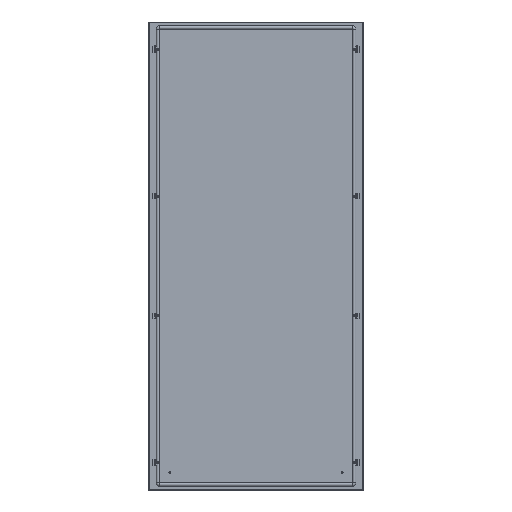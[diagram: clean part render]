
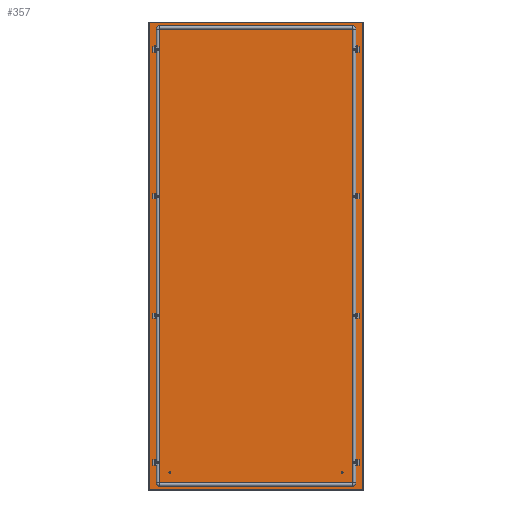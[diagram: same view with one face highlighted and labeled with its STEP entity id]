
A CAD part, top view. The second image highlights one B-rep face of the part: STEP entity #357.
In plain terms, the highlighted planar face has unit normal (0, 0, 1).
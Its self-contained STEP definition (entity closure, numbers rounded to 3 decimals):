
#357 = ADVANCED_FACE('',(#358,#456,#467,#478,#498,#518,#529,#540,#560),
  #580,.F.);
#358 = FACE_BOUND('',#359,.T.);
#359 = EDGE_LOOP('',(#360,#370,#378,#386,#394,#402,#410,#418,#426,#434,
    #442,#450));
#360 = ORIENTED_EDGE('',*,*,#361,.F.);
#361 = EDGE_CURVE('',#362,#364,#366,.T.);
#362 = VERTEX_POINT('',#363);
#363 = CARTESIAN_POINT('',(-495.5,1077.5,0.));
#364 = VERTEX_POINT('',#365);
#365 = CARTESIAN_POINT('',(-495.3,1077.5,0.));
#366 = LINE('',#367,#368);
#367 = CARTESIAN_POINT('',(0.,1077.5,
    0.));
#368 = VECTOR('',#369,1.);
#369 = DIRECTION('',(1.,0.,0.));
#370 = ORIENTED_EDGE('',*,*,#371,.T.);
#371 = EDGE_CURVE('',#362,#372,#374,.T.);
#372 = VERTEX_POINT('',#373);
#373 = CARTESIAN_POINT('',(-495.5,-1077.5,0.));
#374 = LINE('',#375,#376);
#375 = CARTESIAN_POINT('',(-495.5,0.,0.)
  );
#376 = VECTOR('',#377,1.);
#377 = DIRECTION('',(0.,-1.,0.));
#378 = ORIENTED_EDGE('',*,*,#379,.T.);
#379 = EDGE_CURVE('',#372,#380,#382,.T.);
#380 = VERTEX_POINT('',#381);
#381 = CARTESIAN_POINT('',(-495.3,-1077.5,0.));
#382 = LINE('',#383,#384);
#383 = CARTESIAN_POINT('',(0.,-1077.5,
    0.));
#384 = VECTOR('',#385,1.);
#385 = DIRECTION('',(1.,-0.,-0.));
#386 = ORIENTED_EDGE('',*,*,#387,.F.);
#387 = EDGE_CURVE('',#388,#380,#390,.T.);
#388 = VERTEX_POINT('',#389);
#389 = CARTESIAN_POINT('',(-495.3,-1076.,0.));
#390 = LINE('',#391,#392);
#391 = CARTESIAN_POINT('',(-495.3,0.,0.
    ));
#392 = VECTOR('',#393,1.);
#393 = DIRECTION('',(0.,-1.,0.));
#394 = ORIENTED_EDGE('',*,*,#395,.T.);
#395 = EDGE_CURVE('',#388,#396,#398,.T.);
#396 = VERTEX_POINT('',#397);
#397 = CARTESIAN_POINT('',(495.3,-1076.,0.
    ));
#398 = LINE('',#399,#400);
#399 = CARTESIAN_POINT('',(0.,-1076.,
    0.));
#400 = VECTOR('',#401,1.);
#401 = DIRECTION('',(1.,-0.,-0.));
#402 = ORIENTED_EDGE('',*,*,#403,.T.);
#403 = EDGE_CURVE('',#396,#404,#406,.T.);
#404 = VERTEX_POINT('',#405);
#405 = CARTESIAN_POINT('',(495.3,-1077.5,
    0.));
#406 = LINE('',#407,#408);
#407 = CARTESIAN_POINT('',(495.3,-1076.,
    0.));
#408 = VECTOR('',#409,1.);
#409 = DIRECTION('',(0.,-1.,0.));
#410 = ORIENTED_EDGE('',*,*,#411,.F.);
#411 = EDGE_CURVE('',#412,#404,#414,.T.);
#412 = VERTEX_POINT('',#413);
#413 = CARTESIAN_POINT('',(495.5,-1077.5,
    0.));
#414 = LINE('',#415,#416);
#415 = CARTESIAN_POINT('',(0.,-1077.5,
    0.));
#416 = VECTOR('',#417,1.);
#417 = DIRECTION('',(-1.,0.,0.));
#418 = ORIENTED_EDGE('',*,*,#419,.T.);
#419 = EDGE_CURVE('',#412,#420,#422,.T.);
#420 = VERTEX_POINT('',#421);
#421 = CARTESIAN_POINT('',(495.5,1077.5,
    0.));
#422 = LINE('',#423,#424);
#423 = CARTESIAN_POINT('',(495.5,0.,0.));
#424 = VECTOR('',#425,1.);
#425 = DIRECTION('',(0.,1.,0.));
#426 = ORIENTED_EDGE('',*,*,#427,.T.);
#427 = EDGE_CURVE('',#420,#428,#430,.T.);
#428 = VERTEX_POINT('',#429);
#429 = CARTESIAN_POINT('',(495.3,1077.5,
    0.));
#430 = LINE('',#431,#432);
#431 = CARTESIAN_POINT('',(0.,1077.5,
    0.));
#432 = VECTOR('',#433,1.);
#433 = DIRECTION('',(-1.,0.,0.));
#434 = ORIENTED_EDGE('',*,*,#435,.F.);
#435 = EDGE_CURVE('',#436,#428,#438,.T.);
#436 = VERTEX_POINT('',#437);
#437 = CARTESIAN_POINT('',(495.3,1076.,0.
    ));
#438 = LINE('',#439,#440);
#439 = CARTESIAN_POINT('',(495.3,0.,
    0.));
#440 = VECTOR('',#441,1.);
#441 = DIRECTION('',(0.,1.,0.));
#442 = ORIENTED_EDGE('',*,*,#443,.T.);
#443 = EDGE_CURVE('',#436,#444,#446,.T.);
#444 = VERTEX_POINT('',#445);
#445 = CARTESIAN_POINT('',(-495.3,1076.,0.));
#446 = LINE('',#447,#448);
#447 = CARTESIAN_POINT('',(0.,1076.,
    0.));
#448 = VECTOR('',#449,1.);
#449 = DIRECTION('',(-1.,0.,0.));
#450 = ORIENTED_EDGE('',*,*,#451,.T.);
#451 = EDGE_CURVE('',#444,#364,#452,.T.);
#452 = LINE('',#453,#454);
#453 = CARTESIAN_POINT('',(-495.3,1076.,0.));
#454 = VECTOR('',#455,1.);
#455 = DIRECTION('',(0.,1.,0.));
#456 = FACE_BOUND('',#457,.T.);
#457 = EDGE_LOOP('',(#458));
#458 = ORIENTED_EDGE('',*,*,#459,.T.);
#459 = EDGE_CURVE('',#460,#460,#462,.T.);
#460 = VERTEX_POINT('',#461);
#461 = CARTESIAN_POINT('',(-464.5,-270.25,0.));
#462 = CIRCLE('',#463,4.75);
#463 = AXIS2_PLACEMENT_3D('',#464,#465,#466);
#464 = CARTESIAN_POINT('',(-464.5,-275.,0.));
#465 = DIRECTION('',(0.,0.,-1.));
#466 = DIRECTION('',(0.,1.,0.));
#467 = FACE_BOUND('',#468,.T.);
#468 = EDGE_LOOP('',(#469));
#469 = ORIENTED_EDGE('',*,*,#470,.T.);
#470 = EDGE_CURVE('',#471,#471,#473,.T.);
#471 = VERTEX_POINT('',#472);
#472 = CARTESIAN_POINT('',(464.5,-279.75,0.));
#473 = CIRCLE('',#474,4.75);
#474 = AXIS2_PLACEMENT_3D('',#475,#476,#477);
#475 = CARTESIAN_POINT('',(464.5,-275.,0.));
#476 = DIRECTION('',(-0.,0.,-1.));
#477 = DIRECTION('',(0.,-1.,0.));
#478 = FACE_BOUND('',#479,.T.);
#479 = EDGE_LOOP('',(#480,#491));
#480 = ORIENTED_EDGE('',*,*,#481,.F.);
#481 = EDGE_CURVE('',#482,#484,#486,.T.);
#482 = VERTEX_POINT('',#483);
#483 = CARTESIAN_POINT('',(-464.5,954.75,0.));
#484 = VERTEX_POINT('',#485);
#485 = CARTESIAN_POINT('',(-464.5,945.25,0.));
#486 = CIRCLE('',#487,4.75);
#487 = AXIS2_PLACEMENT_3D('',#488,#489,#490);
#488 = CARTESIAN_POINT('',(-464.5,950.,0.));
#489 = DIRECTION('',(0.,0.,1.));
#490 = DIRECTION('',(0.,1.,0.));
#491 = ORIENTED_EDGE('',*,*,#492,.F.);
#492 = EDGE_CURVE('',#484,#482,#493,.T.);
#493 = CIRCLE('',#494,4.75);
#494 = AXIS2_PLACEMENT_3D('',#495,#496,#497);
#495 = CARTESIAN_POINT('',(-464.5,950.,0.));
#496 = DIRECTION('',(0.,0.,1.));
#497 = DIRECTION('',(0.,1.,0.));
#498 = FACE_BOUND('',#499,.T.);
#499 = EDGE_LOOP('',(#500,#511));
#500 = ORIENTED_EDGE('',*,*,#501,.F.);
#501 = EDGE_CURVE('',#502,#504,#506,.T.);
#502 = VERTEX_POINT('',#503);
#503 = CARTESIAN_POINT('',(464.5,945.25,0.));
#504 = VERTEX_POINT('',#505);
#505 = CARTESIAN_POINT('',(464.5,954.75,0.));
#506 = CIRCLE('',#507,4.75);
#507 = AXIS2_PLACEMENT_3D('',#508,#509,#510);
#508 = CARTESIAN_POINT('',(464.5,950.,0.));
#509 = DIRECTION('',(0.,0.,1.));
#510 = DIRECTION('',(0.,-1.,0.));
#511 = ORIENTED_EDGE('',*,*,#512,.F.);
#512 = EDGE_CURVE('',#504,#502,#513,.T.);
#513 = CIRCLE('',#514,4.75);
#514 = AXIS2_PLACEMENT_3D('',#515,#516,#517);
#515 = CARTESIAN_POINT('',(464.5,950.,0.));
#516 = DIRECTION('',(0.,0.,1.));
#517 = DIRECTION('',(0.,-1.,0.));
#518 = FACE_BOUND('',#519,.T.);
#519 = EDGE_LOOP('',(#520));
#520 = ORIENTED_EDGE('',*,*,#521,.T.);
#521 = EDGE_CURVE('',#522,#522,#524,.T.);
#522 = VERTEX_POINT('',#523);
#523 = CARTESIAN_POINT('',(-464.5,-945.25,0.));
#524 = CIRCLE('',#525,4.75);
#525 = AXIS2_PLACEMENT_3D('',#526,#527,#528);
#526 = CARTESIAN_POINT('',(-464.5,-950.,0.));
#527 = DIRECTION('',(0.,0.,-1.));
#528 = DIRECTION('',(0.,1.,0.));
#529 = FACE_BOUND('',#530,.T.);
#530 = EDGE_LOOP('',(#531));
#531 = ORIENTED_EDGE('',*,*,#532,.T.);
#532 = EDGE_CURVE('',#533,#533,#535,.T.);
#533 = VERTEX_POINT('',#534);
#534 = CARTESIAN_POINT('',(464.5,-954.75,0.));
#535 = CIRCLE('',#536,4.75);
#536 = AXIS2_PLACEMENT_3D('',#537,#538,#539);
#537 = CARTESIAN_POINT('',(464.5,-950.,0.));
#538 = DIRECTION('',(-0.,0.,-1.));
#539 = DIRECTION('',(0.,-1.,0.));
#540 = FACE_BOUND('',#541,.T.);
#541 = EDGE_LOOP('',(#542,#553));
#542 = ORIENTED_EDGE('',*,*,#543,.F.);
#543 = EDGE_CURVE('',#544,#546,#548,.T.);
#544 = VERTEX_POINT('',#545);
#545 = CARTESIAN_POINT('',(464.5,270.25,0.));
#546 = VERTEX_POINT('',#547);
#547 = CARTESIAN_POINT('',(464.5,279.75,0.));
#548 = CIRCLE('',#549,4.75);
#549 = AXIS2_PLACEMENT_3D('',#550,#551,#552);
#550 = CARTESIAN_POINT('',(464.5,275.,0.));
#551 = DIRECTION('',(0.,0.,1.));
#552 = DIRECTION('',(0.,-1.,0.));
#553 = ORIENTED_EDGE('',*,*,#554,.F.);
#554 = EDGE_CURVE('',#546,#544,#555,.T.);
#555 = CIRCLE('',#556,4.75);
#556 = AXIS2_PLACEMENT_3D('',#557,#558,#559);
#557 = CARTESIAN_POINT('',(464.5,275.,0.));
#558 = DIRECTION('',(0.,0.,1.));
#559 = DIRECTION('',(0.,-1.,0.));
#560 = FACE_BOUND('',#561,.T.);
#561 = EDGE_LOOP('',(#562,#573));
#562 = ORIENTED_EDGE('',*,*,#563,.F.);
#563 = EDGE_CURVE('',#564,#566,#568,.T.);
#564 = VERTEX_POINT('',#565);
#565 = CARTESIAN_POINT('',(-464.5,279.75,0.));
#566 = VERTEX_POINT('',#567);
#567 = CARTESIAN_POINT('',(-464.5,270.25,0.));
#568 = CIRCLE('',#569,4.75);
#569 = AXIS2_PLACEMENT_3D('',#570,#571,#572);
#570 = CARTESIAN_POINT('',(-464.5,275.,0.));
#571 = DIRECTION('',(0.,0.,1.));
#572 = DIRECTION('',(0.,1.,0.));
#573 = ORIENTED_EDGE('',*,*,#574,.F.);
#574 = EDGE_CURVE('',#566,#564,#575,.T.);
#575 = CIRCLE('',#576,4.75);
#576 = AXIS2_PLACEMENT_3D('',#577,#578,#579);
#577 = CARTESIAN_POINT('',(-464.5,275.,0.));
#578 = DIRECTION('',(0.,0.,1.));
#579 = DIRECTION('',(0.,1.,0.));
#580 = PLANE('',#581);
#581 = AXIS2_PLACEMENT_3D('',#582,#583,#584);
#582 = CARTESIAN_POINT('',(0.,0.,
    0.));
#583 = DIRECTION('',(0.,0.,-1.));
#584 = DIRECTION('',(-1.,0.,0.));
